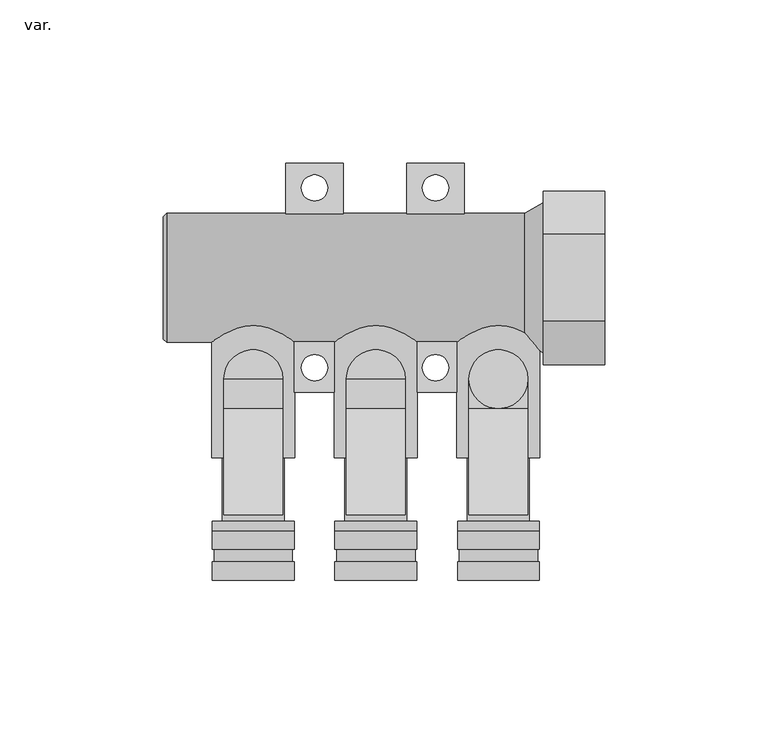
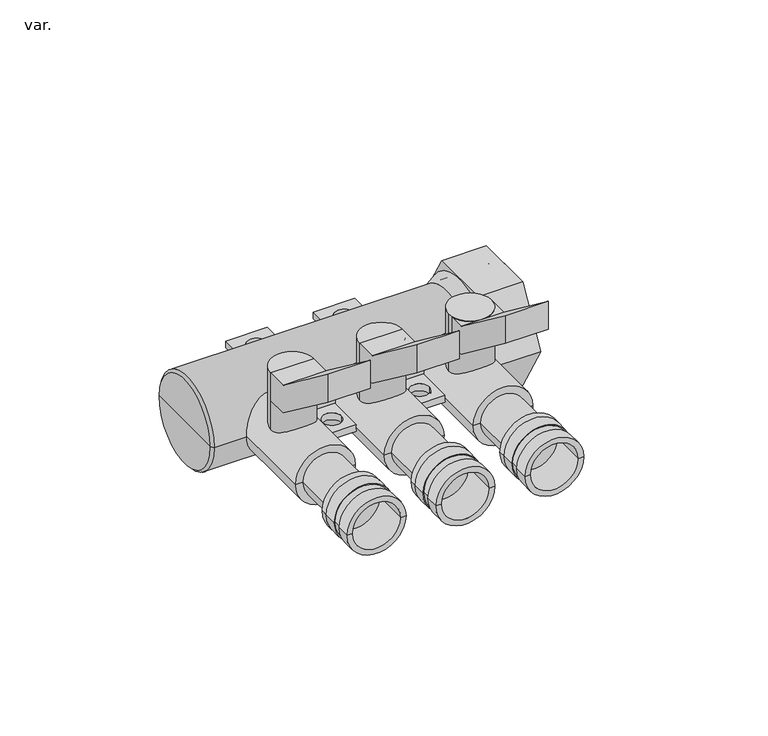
"""IFC4 building model written with IfcOpenShell, lengths in millimetres: pipe fitting geometry, AmancoWavin_ConexõesdeTubos_PEXMódulodeDistribuiçãoMetálicocomVálvula : var.."""

from ifc_helpers import new_model, si_unit, point, frame, frame_2d, origin, origin_with_axes, origin_2d, place, context, project, spatial, polyline, circle_curve, trimmed, segment, composite_curve, outline, extrude, source, transform, mapped, element, save
from ifc_brep_helpers import plane_surface, cylinder_surface, revolved_surface, advanced_brep


def var_654e6bfa(model_context):
    return source(origin(), model_context, "Body", "SolidModel", [
        advanced_brep(
        [(115.0, -92.5, 0.0), (90.0, -92.5, 0.0), (90.0, -86.875, 0.0), (115.0, -86.875, 0.0), (112.675, -92.5, 0.0), (92.325, -92.5, 0.0), (112.675, -77.5, 0.0), (92.325, -77.5, 0.0), (115.0, -77.5, 0.0), (90.0, -77.5, 0.0), (115.0, -83.125, 0.0), (90.0, -83.125, 0.0), (90.5, -86.875, 0.0), (114.5, -86.875, 0.0), (90.5, -83.125, 0.0), (114.5, -83.125, 0.0)],
        [
            (0, 1, circle_curve(frame((102.5, -92.5, 0.0), z_axis=(0.0, 1.0, 0.0), x_axis=(-1.0, 0.0, 0.0)), 12.5)),
            (1, 2),
            (2, 3, circle_curve(frame((102.5, -86.875, 0.0), z_axis=(0.0, -1.0, 0.0), x_axis=(-1.0, 0.0, 0.0)), 12.5)),
            (3, 0),
            (1, 0, circle_curve(frame((102.5, -92.5, 0.0), z_axis=(0.0, 1.0, 0.0), x_axis=(-1.0, 0.0, 0.0)), 12.5)),
            (3, 2, circle_curve(frame((102.5, -86.875, 0.0), z_axis=(0.0, -1.0, 0.0), x_axis=(-1.0, 0.0, 0.0)), 12.5)),
            (0, 4),
            (4, 5, circle_curve(frame((102.5, -92.5, 0.0), z_axis=(0.0, 1.0, 0.0), x_axis=(-1.0, 0.0, 0.0)), 10.175)),
            (5, 1),
            (5, 4, circle_curve(frame((102.5, -92.5, 0.0), z_axis=(0.0, 1.0, 0.0), x_axis=(-1.0, 0.0, 0.0)), 10.175)),
            (4, 6),
            (6, 7, circle_curve(frame((102.5, -77.5, 0.0), z_axis=(0.0, 1.0, 0.0), x_axis=(-1.0, 0.0, 0.0)), 10.175)),
            (7, 5),
            (7, 6, circle_curve(frame((102.5, -77.5, 0.0), z_axis=(0.0, 1.0, 0.0), x_axis=(-1.0, 0.0, 0.0)), 10.175)),
            (6, 8),
            (8, 9, circle_curve(frame((102.5, -77.5, 0.0), z_axis=(0.0, 1.0, 0.0), x_axis=(-1.0, 0.0, 0.0)), 12.5)),
            (9, 7),
            (9, 8, circle_curve(frame((102.5, -77.5, 0.0), z_axis=(0.0, 1.0, 0.0), x_axis=(-1.0, 0.0, 0.0)), 12.5)),
            (8, 10),
            (10, 11, circle_curve(frame((102.5, -83.125, 0.0), z_axis=(0.0, 1.0, 0.0), x_axis=(-1.0, 0.0, 0.0)), 12.5)),
            (11, 9),
            (11, 10, circle_curve(frame((102.5, -83.125, 0.0), z_axis=(0.0, 1.0, 0.0), x_axis=(-1.0, 0.0, 0.0)), 12.5)),
            (12, 13, circle_curve(frame((102.5, -86.875, 0.0), z_axis=(0.0, -1.0, 0.0), x_axis=(-1.0, 0.0, 0.0)), 12.0)),
            (13, 3),
            (2, 12),
            (13, 12, circle_curve(frame((102.5, -86.875, 0.0), z_axis=(0.0, -1.0, 0.0), x_axis=(-1.0, 0.0, 0.0)), 12.0)),
            (12, 14),
            (14, 15, circle_curve(frame((102.5, -83.125, 0.0), z_axis=(0.0, -1.0, 0.0), x_axis=(-1.0, 0.0, 0.0)), 12.0)),
            (15, 13),
            (15, 14, circle_curve(frame((102.5, -83.125, 0.0), z_axis=(0.0, -1.0, 0.0), x_axis=(-1.0, 0.0, 0.0)), 12.0)),
            (14, 11),
            (10, 15),
        ],
        [
            cylinder_surface(frame((102.5, -2086.6007619, 0.0), z_axis=(0.0, -1.0, 0.0), x_axis=(-1.0, 0.0, 0.0)), 12.5),
            plane_surface(frame((102.5, -92.5, 0.0), z_axis=(0.0, -1.0, 0.0), x_axis=(-1.0, 0.0, 0.0))),
            revolved_surface(polyline([(92.325, -92.5, 0.0), (92.325, -77.5, 0.0)]), (102.5, -2086.6007619, 0.0), (0.0, -1.0, 0.0)),
            plane_surface(frame((102.5, -77.5, 0.0), z_axis=(0.0, 1.0, 0.0), x_axis=(-1.0, 0.0, 0.0))),
            plane_surface(frame((102.5, -86.875, 0.0), z_axis=(0.0, 1.0, 0.0), x_axis=(-1.0, 0.0, 0.0))),
            cylinder_surface(frame((102.5, -2086.6007619, 0.0), z_axis=(0.0, -1.0, 0.0), x_axis=(-1.0, 0.0, 0.0)), 12.0),
            plane_surface(frame((102.5, -83.125, 0.0), z_axis=(0.0, -1.0, 0.0), x_axis=(-1.0, 0.0, 0.0))),
        ],
        [
            (0, [[1, 2, 3, 4]]),
            (0, [[5, -4, 6, -2]]),
            (1, [[-1, 7, 8, 9]]),
            (1, [[-5, -9, 10, -7]]),
            (2, [[-8, 11, 12, 13]]),
            (2, [[-10, -13, 14, -11]]),
            (3, [[-12, 15, 16, 17]]),
            (3, [[-14, -17, 18, -15]]),
            (0, [[-16, 19, 20, 21]]),
            (0, [[-18, -21, 22, -19]]),
            (4, [[23, 24, -3, 25]]),
            (4, [[26, -25, -6, -24]]),
            (5, [[-23, 27, 28, 29]]),
            (5, [[-26, -29, 30, -27]]),
            (6, [[-28, 31, -20, 32]]),
            (6, [[-30, -32, -22, -31]]),
        ],
    ),
        advanced_brep(
        [(77.5, -92.5, 0.0), (52.5, -92.5, 0.0), (52.5, -86.875, 0.0), (77.5, -86.875, 0.0), (75.175, -92.5, 0.0), (54.825, -92.5, 0.0), (75.175, -77.5, 0.0), (54.825, -77.5, 0.0), (77.5, -77.5, 0.0), (52.5, -77.5, 0.0), (77.5, -83.125, 0.0), (52.5, -83.125, 0.0), (53.0, -86.875, 0.0), (77.0, -86.875, 0.0), (53.0, -83.125, 0.0), (77.0, -83.125, 0.0)],
        [
            (0, 1, circle_curve(frame((65.0, -92.5, 0.0), z_axis=(0.0, 1.0, 0.0), x_axis=(-1.0, 0.0, 0.0)), 12.5)),
            (1, 2),
            (2, 3, circle_curve(frame((65.0, -86.875, 0.0), z_axis=(0.0, -1.0, 0.0), x_axis=(-1.0, 0.0, 0.0)), 12.5)),
            (3, 0),
            (1, 0, circle_curve(frame((65.0, -92.5, 0.0), z_axis=(0.0, 1.0, 0.0), x_axis=(-1.0, 0.0, 0.0)), 12.5)),
            (3, 2, circle_curve(frame((65.0, -86.875, 0.0), z_axis=(0.0, -1.0, 0.0), x_axis=(-1.0, 0.0, 0.0)), 12.5)),
            (0, 4),
            (4, 5, circle_curve(frame((65.0, -92.5, 0.0), z_axis=(0.0, 1.0, 0.0), x_axis=(-1.0, 0.0, 0.0)), 10.175)),
            (5, 1),
            (5, 4, circle_curve(frame((65.0, -92.5, 0.0), z_axis=(0.0, 1.0, 0.0), x_axis=(-1.0, 0.0, 0.0)), 10.175)),
            (4, 6),
            (6, 7, circle_curve(frame((65.0, -77.5, 0.0), z_axis=(0.0, 1.0, 0.0), x_axis=(-1.0, 0.0, 0.0)), 10.175)),
            (7, 5),
            (7, 6, circle_curve(frame((65.0, -77.5, 0.0), z_axis=(0.0, 1.0, 0.0), x_axis=(-1.0, 0.0, 0.0)), 10.175)),
            (6, 8),
            (8, 9, circle_curve(frame((65.0, -77.5, 0.0), z_axis=(0.0, 1.0, 0.0), x_axis=(-1.0, 0.0, 0.0)), 12.5)),
            (9, 7),
            (9, 8, circle_curve(frame((65.0, -77.5, 0.0), z_axis=(0.0, 1.0, 0.0), x_axis=(-1.0, 0.0, 0.0)), 12.5)),
            (8, 10),
            (10, 11, circle_curve(frame((65.0, -83.125, 0.0), z_axis=(0.0, 1.0, 0.0), x_axis=(-1.0, 0.0, 0.0)), 12.5)),
            (11, 9),
            (11, 10, circle_curve(frame((65.0, -83.125, 0.0), z_axis=(0.0, 1.0, 0.0), x_axis=(-1.0, 0.0, 0.0)), 12.5)),
            (12, 13, circle_curve(frame((65.0, -86.875, 0.0), z_axis=(0.0, -1.0, 0.0), x_axis=(-1.0, 0.0, 0.0)), 12.0)),
            (13, 3),
            (2, 12),
            (13, 12, circle_curve(frame((65.0, -86.875, 0.0), z_axis=(0.0, -1.0, 0.0), x_axis=(-1.0, 0.0, 0.0)), 12.0)),
            (12, 14),
            (14, 15, circle_curve(frame((65.0, -83.125, 0.0), z_axis=(0.0, -1.0, 0.0), x_axis=(-1.0, 0.0, 0.0)), 12.0)),
            (15, 13),
            (15, 14, circle_curve(frame((65.0, -83.125, 0.0), z_axis=(0.0, -1.0, 0.0), x_axis=(-1.0, 0.0, 0.0)), 12.0)),
            (14, 11),
            (10, 15),
        ],
        [
            cylinder_surface(frame((65.0, -2086.6007619, 0.0), z_axis=(0.0, -1.0, 0.0), x_axis=(-1.0, 0.0, 0.0)), 12.5),
            plane_surface(frame((65.0, -92.5, 0.0), z_axis=(0.0, -1.0, 0.0), x_axis=(-1.0, 0.0, 0.0))),
            revolved_surface(polyline([(54.825, -92.5, 0.0), (54.825, -77.5, 0.0)]), (65.0, -2086.6007619, 0.0), (0.0, -1.0, 0.0)),
            plane_surface(frame((65.0, -77.5, 0.0), z_axis=(0.0, 1.0, 0.0), x_axis=(-1.0, 0.0, 0.0))),
            plane_surface(frame((65.0, -86.875, 0.0), z_axis=(0.0, 1.0, 0.0), x_axis=(-1.0, 0.0, 0.0))),
            cylinder_surface(frame((65.0, -2086.6007619, 0.0), z_axis=(0.0, -1.0, 0.0), x_axis=(-1.0, 0.0, 0.0)), 12.0),
            plane_surface(frame((65.0, -83.125, 0.0), z_axis=(0.0, -1.0, 0.0), x_axis=(-1.0, 0.0, 0.0))),
        ],
        [
            (0, [[1, 2, 3, 4]]),
            (0, [[5, -4, 6, -2]]),
            (1, [[-1, 7, 8, 9]]),
            (1, [[-5, -9, 10, -7]]),
            (2, [[-8, 11, 12, 13]]),
            (2, [[-10, -13, 14, -11]]),
            (3, [[-12, 15, 16, 17]]),
            (3, [[-14, -17, 18, -15]]),
            (0, [[-16, 19, 20, 21]]),
            (0, [[-18, -21, 22, -19]]),
            (4, [[23, 24, -3, 25]]),
            (4, [[26, -25, -6, -24]]),
            (5, [[-23, 27, 28, 29]]),
            (5, [[-26, -29, 30, -27]]),
            (6, [[-28, 31, -20, 32]]),
            (6, [[-30, -32, -22, -31]]),
        ],
    ),
        advanced_brep(
        [(40.0, -92.5, 0.0), (15.0, -92.5, 0.0), (15.0, -86.875, 0.0), (40.0, -86.875, 0.0), (37.675, -92.5, 0.0), (17.325, -92.5, 0.0), (37.675, -77.5, 0.0), (17.325, -77.5, 0.0), (40.0, -77.5, 0.0), (15.0, -77.5, 0.0), (40.0, -83.125, 0.0), (15.0, -83.125, 0.0), (15.5, -86.875, 0.0), (39.5, -86.875, 0.0), (15.5, -83.125, 0.0), (39.5, -83.125, 0.0)],
        [
            (0, 1, circle_curve(frame((27.5, -92.5, 0.0), z_axis=(0.0, 1.0, 0.0), x_axis=(-1.0, 0.0, 0.0)), 12.5)),
            (1, 2),
            (2, 3, circle_curve(frame((27.5, -86.875, 0.0), z_axis=(0.0, -1.0, 0.0), x_axis=(-1.0, 0.0, 0.0)), 12.5)),
            (3, 0),
            (1, 0, circle_curve(frame((27.5, -92.5, 0.0), z_axis=(0.0, 1.0, 0.0), x_axis=(-1.0, 0.0, 0.0)), 12.5)),
            (3, 2, circle_curve(frame((27.5, -86.875, 0.0), z_axis=(0.0, -1.0, 0.0), x_axis=(-1.0, 0.0, 0.0)), 12.5)),
            (0, 4),
            (4, 5, circle_curve(frame((27.5, -92.5, 0.0), z_axis=(0.0, 1.0, 0.0), x_axis=(-1.0, 0.0, 0.0)), 10.175)),
            (5, 1),
            (5, 4, circle_curve(frame((27.5, -92.5, 0.0), z_axis=(0.0, 1.0, 0.0), x_axis=(-1.0, 0.0, 0.0)), 10.175)),
            (4, 6),
            (6, 7, circle_curve(frame((27.5, -77.5, 0.0), z_axis=(0.0, 1.0, 0.0), x_axis=(-1.0, 0.0, 0.0)), 10.175)),
            (7, 5),
            (7, 6, circle_curve(frame((27.5, -77.5, 0.0), z_axis=(0.0, 1.0, 0.0), x_axis=(-1.0, 0.0, 0.0)), 10.175)),
            (6, 8),
            (8, 9, circle_curve(frame((27.5, -77.5, 0.0), z_axis=(0.0, 1.0, 0.0), x_axis=(-1.0, 0.0, 0.0)), 12.5)),
            (9, 7),
            (9, 8, circle_curve(frame((27.5, -77.5, 0.0), z_axis=(0.0, 1.0, 0.0), x_axis=(-1.0, 0.0, 0.0)), 12.5)),
            (8, 10),
            (10, 11, circle_curve(frame((27.5, -83.125, 0.0), z_axis=(0.0, 1.0, 0.0), x_axis=(-1.0, 0.0, 0.0)), 12.5)),
            (11, 9),
            (11, 10, circle_curve(frame((27.5, -83.125, 0.0), z_axis=(0.0, 1.0, 0.0), x_axis=(-1.0, 0.0, 0.0)), 12.5)),
            (12, 13, circle_curve(frame((27.5, -86.875, 0.0), z_axis=(0.0, -1.0, 0.0), x_axis=(-1.0, 0.0, 0.0)), 12.0)),
            (13, 3),
            (2, 12),
            (13, 12, circle_curve(frame((27.5, -86.875, 0.0), z_axis=(0.0, -1.0, 0.0), x_axis=(-1.0, 0.0, 0.0)), 12.0)),
            (12, 14),
            (14, 15, circle_curve(frame((27.5, -83.125, 0.0), z_axis=(0.0, -1.0, 0.0), x_axis=(-1.0, 0.0, 0.0)), 12.0)),
            (15, 13),
            (15, 14, circle_curve(frame((27.5, -83.125, 0.0), z_axis=(0.0, -1.0, 0.0), x_axis=(-1.0, 0.0, 0.0)), 12.0)),
            (14, 11),
            (10, 15),
        ],
        [
            cylinder_surface(frame((27.5, -2086.6007619, 0.0), z_axis=(0.0, -1.0, 0.0), x_axis=(-1.0, 0.0, 0.0)), 12.5),
            plane_surface(frame((27.5, -92.5, 0.0), z_axis=(0.0, -1.0, 0.0), x_axis=(-1.0, 0.0, 0.0))),
            revolved_surface(polyline([(17.325, -92.5, 0.0), (17.325, -77.5, 0.0)]), (27.5, -2086.6007619, 0.0), (0.0, -1.0, 0.0)),
            plane_surface(frame((27.5, -77.5, 0.0), z_axis=(0.0, 1.0, 0.0), x_axis=(-1.0, 0.0, 0.0))),
            plane_surface(frame((27.5, -86.875, 0.0), z_axis=(0.0, 1.0, 0.0), x_axis=(-1.0, 0.0, 0.0))),
            cylinder_surface(frame((27.5, -2086.6007619, 0.0), z_axis=(0.0, -1.0, 0.0), x_axis=(-1.0, 0.0, 0.0)), 12.0),
            plane_surface(frame((27.5, -83.125, 0.0), z_axis=(0.0, -1.0, 0.0), x_axis=(-1.0, 0.0, 0.0))),
        ],
        [
            (0, [[1, 2, 3, 4]]),
            (0, [[5, -4, 6, -2]]),
            (1, [[-1, 7, 8, 9]]),
            (1, [[-5, -9, 10, -7]]),
            (2, [[-8, 11, 12, 13]]),
            (2, [[-10, -13, 14, -11]]),
            (3, [[-12, 15, 16, 17]]),
            (3, [[-14, -17, 18, -15]]),
            (0, [[-16, 19, 20, 21]]),
            (0, [[-18, -21, 22, -19]]),
            (4, [[23, 24, -3, 25]]),
            (4, [[26, -25, -6, -24]]),
            (5, [[-23, 27, 28, 29]]),
            (5, [[-26, -29, 30, -27]]),
            (6, [[-28, 31, -20, 32]]),
            (6, [[-30, -32, -22, -31]]),
        ],
    ),
        extrude(outline(composite_curve([segment(trimmed(circle_curve(frame_2d((102.5, -31.0)), 9.0), [point((93.5, -31.0))], [point((111.5, -31.0))], False, "CARTESIAN"), True, "CONTINUOUS"), segment(trimmed(circle_curve(frame_2d((102.5, -31.0)), 9.0), [point((111.5, -31.0))], [point((93.5, -31.0))], False, "CARTESIAN"), True, "CONTINUOUS")], self_intersect=False)), origin_with_axes(), (0.0, 0.0, 1.0), 34.0),
        advanced_brep(
        [(115.2, 0.0, 0.0), (89.8, 0.0, 0.0), (102.5, 0.0, 0.0), (115.2, -55.0, 0.0), (89.8, -55.0, 0.0), (112.0, -55.0, 0.0), (93.0, -55.0, 0.0), (112.0, -74.5, 0.0), (93.0, -74.5, 0.0), (115.0, -74.5, 0.0), (90.0, -74.5, 0.0), (115.0, -77.5, 0.0), (90.0, -77.5, 0.0), (102.5, -77.5, 0.0)],
        [
            (0, 1, circle_curve(frame((102.5, 0.0, 0.0), z_axis=(0.0, 1.0, 0.0), x_axis=(-1.0, 0.0, 0.0)), 12.7)),
            (1, 2),
            (2, 0),
            (1, 0, circle_curve(frame((102.5, 0.0, 0.0), z_axis=(0.0, 1.0, 0.0), x_axis=(-1.0, 0.0, 0.0)), 12.7)),
            (3, 4, circle_curve(frame((102.5, -55.0, 0.0), z_axis=(0.0, 1.0, 0.0), x_axis=(-1.0, 0.0, 0.0)), 12.7)),
            (4, 1),
            (0, 3),
            (4, 3, circle_curve(frame((102.5, -55.0, 0.0), z_axis=(0.0, 1.0, 0.0), x_axis=(-1.0, 0.0, 0.0)), 12.7)),
            (5, 6, circle_curve(frame((102.5, -55.0, 0.0), z_axis=(0.0, 1.0, 0.0), x_axis=(-1.0, 0.0, 0.0)), 9.5)),
            (6, 4),
            (3, 5),
            (6, 5, circle_curve(frame((102.5, -55.0, 0.0), z_axis=(0.0, 1.0, 0.0), x_axis=(-1.0, 0.0, 0.0)), 9.5)),
            (7, 8, circle_curve(frame((102.5, -74.5, 0.0), z_axis=(0.0, 1.0, 0.0), x_axis=(-1.0, 0.0, 0.0)), 9.5)),
            (8, 6),
            (5, 7),
            (8, 7, circle_curve(frame((102.5, -74.5, 0.0), z_axis=(0.0, 1.0, 0.0), x_axis=(-1.0, 0.0, 0.0)), 9.5)),
            (9, 10, circle_curve(frame((102.5, -74.5, 0.0), z_axis=(0.0, 1.0, 0.0), x_axis=(-1.0, 0.0, 0.0)), 12.5)),
            (10, 8),
            (7, 9),
            (10, 9, circle_curve(frame((102.5, -74.5, 0.0), z_axis=(0.0, 1.0, 0.0), x_axis=(-1.0, 0.0, 0.0)), 12.5)),
            (11, 12, circle_curve(frame((102.5, -77.5, 0.0), z_axis=(0.0, 1.0, 0.0), x_axis=(-1.0, 0.0, 0.0)), 12.5)),
            (12, 10),
            (9, 11),
            (12, 11, circle_curve(frame((102.5, -77.5, 0.0), z_axis=(0.0, 1.0, 0.0), x_axis=(-1.0, 0.0, 0.0)), 12.5)),
            (13, 12),
            (11, 13),
        ],
        [
            plane_surface(frame((102.5, 0.0, 0.0), z_axis=(0.0, 1.0, 0.0), x_axis=(-1.0, 0.0, 0.0))),
            cylinder_surface(frame((102.5, 0.0, 0.0), z_axis=(0.0, -1.0, 0.0), x_axis=(-1.0, 0.0, 0.0)), 12.7),
            plane_surface(frame((102.5, -55.0, 0.0), z_axis=(0.0, -1.0, 0.0), x_axis=(-1.0, 0.0, 0.0))),
            cylinder_surface(frame((102.5, 0.0, 0.0), z_axis=(0.0, -1.0, 0.0), x_axis=(-1.0, 0.0, 0.0)), 9.5),
            plane_surface(frame((102.5, -74.5, 0.0), z_axis=(0.0, 1.0, 0.0), x_axis=(-1.0, 0.0, 0.0))),
            cylinder_surface(frame((102.5, 0.0, 0.0), z_axis=(0.0, -1.0, 0.0), x_axis=(-1.0, 0.0, 0.0)), 12.5),
            plane_surface(frame((102.5, -77.5, 0.0), z_axis=(0.0, -1.0, 0.0), x_axis=(-1.0, 0.0, 0.0))),
        ],
        [
            (0, [[1, 2, 3]]),
            (0, [[4, -3, -2]]),
            (1, [[5, 6, -1, 7]]),
            (1, [[8, -7, -4, -6]]),
            (2, [[9, 10, -5, 11]]),
            (2, [[12, -11, -8, -10]]),
            (3, [[13, 14, -9, 15]]),
            (3, [[16, -15, -12, -14]]),
            (4, [[17, 18, -13, 19]]),
            (4, [[20, -19, -16, -18]]),
            (5, [[21, 22, -17, 23]]),
            (5, [[24, -23, -20, -22]]),
            (6, [[25, -21, 26]]),
            (6, [[-26, -24, -25]]),
        ],
    ),
        extrude(outline(polyline([(-72.5, 58.4905066), (-40.0, 34.0), (-31.0, 34.0), (-31.0, 21.6), (-40.0, 21.6), (-72.5, 46.0905066), (-72.5, 58.4905066)])), frame((93.5, 0.0, 0.0), z_axis=(1.0, 0.0, 0.0), x_axis=(0.0, 1.0, 0.0)), (0.0, 0.0, 1.0), 18.0),
        extrude(outline(polyline([(-72.5, 58.4905066), (-40.0, 34.0), (-31.0, 34.0), (-31.0, 21.6), (-40.0, 21.6), (-72.5, 46.0905066), (-72.5, 58.4905066)])), frame((56.0, 0.0, 0.0), z_axis=(1.0, 0.0, 0.0), x_axis=(0.0, 1.0, 0.0)), (0.0, 0.0, 1.0), 18.0),
        extrude(outline(composite_curve([segment(trimmed(circle_curve(frame_2d((65.0, -31.0)), 9.0), [point((56.0, -31.0))], [point((74.0, -31.0))], False, "CARTESIAN"), True, "CONTINUOUS"), segment(trimmed(circle_curve(frame_2d((65.0, -31.0)), 9.0), [point((74.0, -31.0))], [point((56.0, -31.0))], False, "CARTESIAN"), True, "CONTINUOUS")], self_intersect=False)), origin_with_axes(), (0.0, 0.0, 1.0), 34.0),
        advanced_brep(
        [(77.7, 0.0, 0.0), (52.3, 0.0, 0.0), (65.0, 0.0, 0.0), (77.7, -55.0, 0.0), (52.3, -55.0, 0.0), (74.5, -55.0, 0.0), (55.5, -55.0, 0.0), (74.5, -74.5, 0.0), (55.5, -74.5, 0.0), (77.5, -74.5, 0.0), (52.5, -74.5, 0.0), (77.5, -77.5, 0.0), (52.5, -77.5, 0.0), (65.0, -77.5, 0.0)],
        [
            (0, 1, circle_curve(frame((65.0, 0.0, 0.0), z_axis=(0.0, 1.0, 0.0), x_axis=(-1.0, 0.0, 0.0)), 12.7)),
            (1, 2),
            (2, 0),
            (1, 0, circle_curve(frame((65.0, 0.0, 0.0), z_axis=(0.0, 1.0, 0.0), x_axis=(-1.0, 0.0, 0.0)), 12.7)),
            (3, 4, circle_curve(frame((65.0, -55.0, 0.0), z_axis=(0.0, 1.0, 0.0), x_axis=(-1.0, 0.0, 0.0)), 12.7)),
            (4, 1),
            (0, 3),
            (4, 3, circle_curve(frame((65.0, -55.0, 0.0), z_axis=(0.0, 1.0, 0.0), x_axis=(-1.0, 0.0, 0.0)), 12.7)),
            (5, 6, circle_curve(frame((65.0, -55.0, 0.0), z_axis=(0.0, 1.0, 0.0), x_axis=(-1.0, 0.0, 0.0)), 9.5)),
            (6, 4),
            (3, 5),
            (6, 5, circle_curve(frame((65.0, -55.0, 0.0), z_axis=(0.0, 1.0, 0.0), x_axis=(-1.0, 0.0, 0.0)), 9.5)),
            (7, 8, circle_curve(frame((65.0, -74.5, 0.0), z_axis=(0.0, 1.0, 0.0), x_axis=(-1.0, 0.0, 0.0)), 9.5)),
            (8, 6),
            (5, 7),
            (8, 7, circle_curve(frame((65.0, -74.5, 0.0), z_axis=(0.0, 1.0, 0.0), x_axis=(-1.0, 0.0, 0.0)), 9.5)),
            (9, 10, circle_curve(frame((65.0, -74.5, 0.0), z_axis=(0.0, 1.0, 0.0), x_axis=(-1.0, 0.0, 0.0)), 12.5)),
            (10, 8),
            (7, 9),
            (10, 9, circle_curve(frame((65.0, -74.5, 0.0), z_axis=(0.0, 1.0, 0.0), x_axis=(-1.0, 0.0, 0.0)), 12.5)),
            (11, 12, circle_curve(frame((65.0, -77.5, 0.0), z_axis=(0.0, 1.0, 0.0), x_axis=(-1.0, 0.0, 0.0)), 12.5)),
            (12, 10),
            (9, 11),
            (12, 11, circle_curve(frame((65.0, -77.5, 0.0), z_axis=(0.0, 1.0, 0.0), x_axis=(-1.0, 0.0, 0.0)), 12.5)),
            (13, 12),
            (11, 13),
        ],
        [
            plane_surface(frame((65.0, 0.0, 0.0), z_axis=(0.0, 1.0, 0.0), x_axis=(-1.0, 0.0, 0.0))),
            cylinder_surface(frame((65.0, 0.0, 0.0), z_axis=(0.0, -1.0, 0.0), x_axis=(-1.0, 0.0, 0.0)), 12.7),
            plane_surface(frame((65.0, -55.0, 0.0), z_axis=(0.0, -1.0, 0.0), x_axis=(-1.0, 0.0, 0.0))),
            cylinder_surface(frame((65.0, 0.0, 0.0), z_axis=(0.0, -1.0, 0.0), x_axis=(-1.0, 0.0, 0.0)), 9.5),
            plane_surface(frame((65.0, -74.5, 0.0), z_axis=(0.0, 1.0, 0.0), x_axis=(-1.0, 0.0, 0.0))),
            cylinder_surface(frame((65.0, 0.0, 0.0), z_axis=(0.0, -1.0, 0.0), x_axis=(-1.0, 0.0, 0.0)), 12.5),
            plane_surface(frame((65.0, -77.5, 0.0), z_axis=(0.0, -1.0, 0.0), x_axis=(-1.0, 0.0, 0.0))),
        ],
        [
            (0, [[1, 2, 3]]),
            (0, [[4, -3, -2]]),
            (1, [[5, 6, -1, 7]]),
            (1, [[8, -7, -4, -6]]),
            (2, [[9, 10, -5, 11]]),
            (2, [[12, -11, -8, -10]]),
            (3, [[13, 14, -9, 15]]),
            (3, [[16, -15, -12, -14]]),
            (4, [[17, 18, -13, 19]]),
            (4, [[20, -19, -16, -18]]),
            (5, [[21, 22, -17, 23]]),
            (5, [[24, -23, -20, -22]]),
            (6, [[25, -21, 26]]),
            (6, [[-26, -24, -25]]),
        ],
    ),
        extrude(outline(polyline([(92.0, 35.0), (92.0, -35.0), (74.5, -35.0), (74.5, 35.0), (92.0, 35.0)]), holes=[composite_curve([segment(trimmed(circle_curve(frame_2d((83.25, 27.5)), 4.0), [point((79.25, 27.5))], [point((87.25, 27.5))], True, "CARTESIAN"), True, "CONTINUOUS"), segment(trimmed(circle_curve(frame_2d((83.25, 27.5)), 4.0), [point((87.25, 27.5))], [point((79.25, 27.5))], True, "CARTESIAN"), True, "CONTINUOUS")], self_intersect=False), composite_curve([segment(trimmed(circle_curve(frame_2d((83.25, -27.5)), 4.0), [point((79.25, -27.5))], [point((87.25, -27.5))], True, "CARTESIAN"), True, "CONTINUOUS"), segment(trimmed(circle_curve(frame_2d((83.25, -27.5)), 4.0), [point((87.25, -27.5))], [point((79.25, -27.5))], True, "CARTESIAN"), True, "CONTINUOUS")], self_intersect=False)]), frame((0.0, 0.0, -1.5), z_axis=(0.0, 0.0, 1.0), x_axis=(1.0, 0.0, 0.0)), (0.0, 0.0, 1.0), 3.0),
        extrude(outline(polyline([(55.0, 35.0), (55.0, -35.0), (37.5, -35.0), (37.5, 35.0), (55.0, 35.0)]), holes=[composite_curve([segment(trimmed(circle_curve(frame_2d((46.25, 27.5)), 4.0), [point((42.25, 27.5))], [point((50.25, 27.5))], True, "CARTESIAN"), True, "CONTINUOUS"), segment(trimmed(circle_curve(frame_2d((46.25, 27.5)), 4.0), [point((50.25, 27.5))], [point((42.25, 27.5))], True, "CARTESIAN"), True, "CONTINUOUS")], self_intersect=False), composite_curve([segment(trimmed(circle_curve(frame_2d((46.25, -27.5)), 4.0), [point((42.25, -27.5))], [point((50.25, -27.5))], True, "CARTESIAN"), True, "CONTINUOUS"), segment(trimmed(circle_curve(frame_2d((46.25, -27.5)), 4.0), [point((50.25, -27.5))], [point((42.25, -27.5))], True, "CARTESIAN"), True, "CONTINUOUS")], self_intersect=False)]), frame((0.0, 0.0, -1.5), z_axis=(0.0, 0.0, 1.0), x_axis=(1.0, 0.0, 0.0)), (0.0, 0.0, 1.0), 3.0),
        extrude(outline(polyline([(-72.5, 58.4905066), (-40.0, 34.0), (-31.0, 34.0), (-31.0, 21.6), (-40.0, 21.6), (-72.5, 46.0905066), (-72.5, 58.4905066)])), frame((18.5, 0.0, 0.0), z_axis=(1.0, 0.0, 0.0), x_axis=(0.0, 1.0, 0.0)), (0.0, 0.0, 1.0), 18.0),
        extrude(outline(composite_curve([segment(trimmed(circle_curve(frame_2d((27.5, -31.0)), 9.0), [point((18.5, -31.0))], [point((36.5, -31.0))], False, "CARTESIAN"), True, "CONTINUOUS"), segment(trimmed(circle_curve(frame_2d((27.5, -31.0)), 9.0), [point((36.5, -31.0))], [point((18.5, -31.0))], False, "CARTESIAN"), True, "CONTINUOUS")], self_intersect=False)), origin_with_axes(), (0.0, 0.0, 1.0), 34.0),
        advanced_brep(
        [(40.2, 0.0, 0.0), (14.8, 0.0, 0.0), (27.5, 0.0, 0.0), (40.2, -55.0, 0.0), (14.8, -55.0, 0.0), (37.0, -55.0, 0.0), (18.0, -55.0, 0.0), (37.0, -74.5, 0.0), (18.0, -74.5, 0.0), (40.0, -74.5, 0.0), (15.0, -74.5, 0.0), (40.0, -77.5, 0.0), (15.0, -77.5, 0.0), (27.5, -77.5, 0.0)],
        [
            (0, 1, circle_curve(frame((27.5, 0.0, 0.0), z_axis=(0.0, 1.0, 0.0), x_axis=(-1.0, 0.0, 0.0)), 12.7)),
            (1, 2),
            (2, 0),
            (1, 0, circle_curve(frame((27.5, 0.0, 0.0), z_axis=(0.0, 1.0, 0.0), x_axis=(-1.0, 0.0, 0.0)), 12.7)),
            (3, 4, circle_curve(frame((27.5, -55.0, 0.0), z_axis=(0.0, 1.0, 0.0), x_axis=(-1.0, 0.0, 0.0)), 12.7)),
            (4, 1),
            (0, 3),
            (4, 3, circle_curve(frame((27.5, -55.0, 0.0), z_axis=(0.0, 1.0, 0.0), x_axis=(-1.0, 0.0, 0.0)), 12.7)),
            (5, 6, circle_curve(frame((27.5, -55.0, 0.0), z_axis=(0.0, 1.0, 0.0), x_axis=(-1.0, 0.0, 0.0)), 9.5)),
            (6, 4),
            (3, 5),
            (6, 5, circle_curve(frame((27.5, -55.0, 0.0), z_axis=(0.0, 1.0, 0.0), x_axis=(-1.0, 0.0, 0.0)), 9.5)),
            (7, 8, circle_curve(frame((27.5, -74.5, 0.0), z_axis=(0.0, 1.0, 0.0), x_axis=(-1.0, 0.0, 0.0)), 9.5)),
            (8, 6),
            (5, 7),
            (8, 7, circle_curve(frame((27.5, -74.5, 0.0), z_axis=(0.0, 1.0, 0.0), x_axis=(-1.0, 0.0, 0.0)), 9.5)),
            (9, 10, circle_curve(frame((27.5, -74.5, 0.0), z_axis=(0.0, 1.0, 0.0), x_axis=(-1.0, 0.0, 0.0)), 12.5)),
            (10, 8),
            (7, 9),
            (10, 9, circle_curve(frame((27.5, -74.5, 0.0), z_axis=(0.0, 1.0, 0.0), x_axis=(-1.0, 0.0, 0.0)), 12.5)),
            (11, 12, circle_curve(frame((27.5, -77.5, 0.0), z_axis=(0.0, 1.0, 0.0), x_axis=(-1.0, 0.0, 0.0)), 12.5)),
            (12, 10),
            (9, 11),
            (12, 11, circle_curve(frame((27.5, -77.5, 0.0), z_axis=(0.0, 1.0, 0.0), x_axis=(-1.0, 0.0, 0.0)), 12.5)),
            (13, 12),
            (11, 13),
        ],
        [
            plane_surface(frame((27.5, 0.0, 0.0), z_axis=(0.0, 1.0, 0.0), x_axis=(-1.0, 0.0, 0.0))),
            cylinder_surface(frame((27.5, 0.0, 0.0), z_axis=(0.0, -1.0, 0.0), x_axis=(-1.0, 0.0, 0.0)), 12.7),
            plane_surface(frame((27.5, -55.0, 0.0), z_axis=(0.0, -1.0, 0.0), x_axis=(-1.0, 0.0, 0.0))),
            cylinder_surface(frame((27.5, 0.0, 0.0), z_axis=(0.0, -1.0, 0.0), x_axis=(-1.0, 0.0, 0.0)), 9.5),
            plane_surface(frame((27.5, -74.5, 0.0), z_axis=(0.0, 1.0, 0.0), x_axis=(-1.0, 0.0, 0.0))),
            cylinder_surface(frame((27.5, 0.0, 0.0), z_axis=(0.0, -1.0, 0.0), x_axis=(-1.0, 0.0, 0.0)), 12.5),
            plane_surface(frame((27.5, -77.5, 0.0), z_axis=(0.0, -1.0, 0.0), x_axis=(-1.0, 0.0, 0.0))),
        ],
        [
            (0, [[1, 2, 3]]),
            (0, [[4, -3, -2]]),
            (1, [[5, 6, -1, 7]]),
            (1, [[8, -7, -4, -6]]),
            (2, [[9, 10, -5, 11]]),
            (2, [[12, -11, -8, -10]]),
            (3, [[13, 14, -9, 15]]),
            (3, [[16, -15, -12, -14]]),
            (4, [[17, 18, -13, 19]]),
            (4, [[20, -19, -16, -18]]),
            (5, [[21, 22, -17, 23]]),
            (5, [[24, -23, -20, -22]]),
            (6, [[25, -21, 26]]),
            (6, [[-26, -24, -25]]),
        ],
    ),
        extrude(outline(polyline([(26.5581124, 0.0), (13.2790562, -23.0), (-13.2790562, -23.0), (-26.5581124, 0.0), (-13.2790562, 23.0), (13.2790562, 23.0), (26.5581124, 0.0)]), holes=[composite_curve([segment(trimmed(circle_curve(origin_2d(), 19.75), [point((19.75, 0.0))], [point((-19.75, 0.0))], True, "CARTESIAN"), True, "CONTINUOUS"), segment(trimmed(circle_curve(origin_2d(), 19.75), [point((-19.75, 0.0))], [point((19.75, 0.0))], True, "CARTESIAN"), True, "CONTINUOUS")], self_intersect=False)]), frame((116.17, 0.0, 0.0), z_axis=(1.0, 0.0, 0.0), x_axis=(0.0, 1.0, 0.0)), (0.0, 0.0, 1.0), 18.83),
        advanced_brep(
        [(0.0, -18.75, 0.0), (0.0, 18.75, 0.0), (1.0, 19.75, 0.0), (1.0, -19.75, 0.0), (0.0, 0.0, 0.0), (121.0, -19.75, 0.0), (121.0, 19.75, 0.0), (121.0, 0.0, 0.0), (135.0, -19.75, 0.0), (135.0, 19.75, 0.0), (135.0, -23.0, 0.0), (135.0, 23.0, 0.0), (116.17, -23.0, 0.0), (116.17, 23.0, 0.0), (110.5408349, -19.75, 0.0), (110.5408349, 19.75, 0.0)],
        [
            (0, 1, circle_curve(frame((0.0, 0.0, 0.0), z_axis=(1.0, 0.0, 0.0), x_axis=(0.0, 1.0, 0.0)), 18.75)),
            (1, 2),
            (2, 3, circle_curve(frame((1.0, 0.0, 0.0), z_axis=(-1.0, 0.0, 0.0), x_axis=(0.0, 1.0, 0.0)), 19.75)),
            (3, 0),
            (1, 0, circle_curve(frame((0.0, 0.0, 0.0), z_axis=(1.0, 0.0, 0.0), x_axis=(0.0, 1.0, 0.0)), 18.75)),
            (3, 2, circle_curve(frame((1.0, 0.0, 0.0), z_axis=(-1.0, 0.0, 0.0), x_axis=(0.0, 1.0, 0.0)), 19.75)),
            (4, 1),
            (0, 4),
            (5, 6, circle_curve(frame((121.0, 0.0, 0.0), z_axis=(1.0, 0.0, 0.0), x_axis=(0.0, 1.0, 0.0)), 19.75)),
            (6, 7),
            (7, 5),
            (6, 5, circle_curve(frame((121.0, 0.0, 0.0), z_axis=(1.0, 0.0, 0.0), x_axis=(0.0, 1.0, 0.0)), 19.75)),
            (8, 9, circle_curve(frame((135.0, 0.0, 0.0), z_axis=(1.0, 0.0, 0.0), x_axis=(0.0, 1.0, 0.0)), 19.75)),
            (9, 6),
            (5, 8),
            (9, 8, circle_curve(frame((135.0, 0.0, 0.0), z_axis=(1.0, 0.0, 0.0), x_axis=(0.0, 1.0, 0.0)), 19.75)),
            (10, 11, circle_curve(frame((135.0, 0.0, 0.0), z_axis=(1.0, 0.0, 0.0), x_axis=(0.0, 1.0, 0.0)), 23.0)),
            (11, 9),
            (8, 10),
            (11, 10, circle_curve(frame((135.0, 0.0, 0.0), z_axis=(1.0, 0.0, 0.0), x_axis=(0.0, 1.0, 0.0)), 23.0)),
            (12, 13, circle_curve(frame((116.17, 0.0, 0.0), z_axis=(1.0, 0.0, 0.0), x_axis=(0.0, 1.0, 0.0)), 23.0)),
            (13, 11),
            (10, 12),
            (13, 12, circle_curve(frame((116.17, 0.0, 0.0), z_axis=(1.0, 0.0, 0.0), x_axis=(0.0, 1.0, 0.0)), 23.0)),
            (14, 15, circle_curve(frame((110.5408349, 0.0, 0.0), z_axis=(1.0, 0.0, 0.0), x_axis=(0.0, 1.0, 0.0)), 19.75)),
            (15, 13),
            (12, 14),
            (15, 14, circle_curve(frame((110.5408349, 0.0, 0.0), z_axis=(1.0, 0.0, 0.0), x_axis=(0.0, 1.0, 0.0)), 19.75)),
            (2, 15),
            (14, 3),
        ],
        [
            revolved_surface(polyline([(1.0, 19.75, 0.0), (0.0, 18.75, 0.0)]), (-2001.7466803, 0.0, 0.0), (-1.0, 0.0, 0.0)),
            plane_surface(frame((0.0, 0.0, 0.0), z_axis=(-1.0, 0.0, 0.0), x_axis=(0.0, 1.0, 0.0))),
            plane_surface(frame((121.0, 0.0, 0.0), z_axis=(1.0, 0.0, 0.0), x_axis=(0.0, 1.0, 0.0))),
            revolved_surface(polyline([(120.99999999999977, 19.75, 0.0), (134.99999999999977, 19.75, 0.0)]), (-2001.7466803, 0.0, 0.0), (-1.0, 0.0, 0.0)),
            plane_surface(frame((135.0, 0.0, 0.0), z_axis=(1.0, 0.0, 0.0), x_axis=(0.0, 1.0, 0.0))),
            cylinder_surface(frame((-2001.7466803, 0.0, 0.0), z_axis=(-1.0, 0.0, 0.0), x_axis=(0.0, 1.0, 0.0)), 23.0),
            revolved_surface(polyline([(116.17, 23.0, 0.0), (110.5408349, 19.75, 0.0)]), (-2001.7466803, 0.0, 0.0), (-1.0, 0.0, 0.0)),
            cylinder_surface(frame((-2001.7466803, 0.0, 0.0), z_axis=(-1.0, 0.0, 0.0), x_axis=(0.0, 1.0, 0.0)), 19.75),
        ],
        [
            (0, [[1, 2, 3, 4]]),
            (0, [[5, -4, 6, -2]]),
            (1, [[7, -1, 8]]),
            (1, [[-8, -5, -7]]),
            (2, [[9, 10, 11]]),
            (2, [[12, -11, -10]]),
            (3, [[13, 14, -9, 15]]),
            (3, [[16, -15, -12, -14]]),
            (4, [[17, 18, -13, 19]]),
            (4, [[20, -19, -16, -18]]),
            (5, [[21, 22, -17, 23]]),
            (5, [[24, -23, -20, -22]]),
            (6, [[25, 26, -21, 27]]),
            (6, [[28, -27, -24, -26]]),
            (7, [[-3, 29, -25, 30]]),
            (7, [[-6, -30, -28, -29]]),
        ],
    ),
    ])


if __name__ == "__main__":
    model = new_model("IFC4")
    model_context = context("Model", 3, world=origin())
    ifc_project = project(units=[si_unit("LENGTHUNIT", "METRE", prefix="MILLI")], contexts=[model_context])
    site = spatial("IfcSite", under=ifc_project)
    building = spatial("IfcBuilding", under=site)
    placement = place(None, origin())
    var_shape = var_654e6bfa(model_context)
    element("IfcPipeFitting", 1, ObjectType="AmancoWavin_ConexõesdeTubos_PEXMódulodeDistribuiçãoMetálicocomVálvula : var.", at=placement, inside=building, context=model_context, shape_type="MappedRepresentation", body=[
        mapped(var_shape, transform((0.0, 0.0, 0.0), x_axis=(1.0, 0.0, 0.0), y_axis=(0.0, 1.0, 0.0), z_axis=(0.0, 0.0, 1.0))),
    ])
    save(model, "model.ifc")
